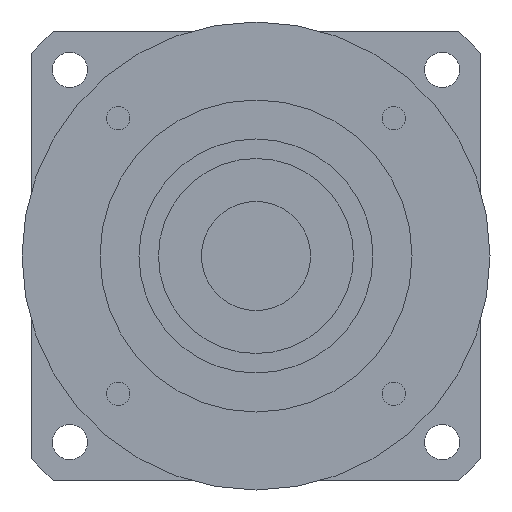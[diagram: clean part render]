
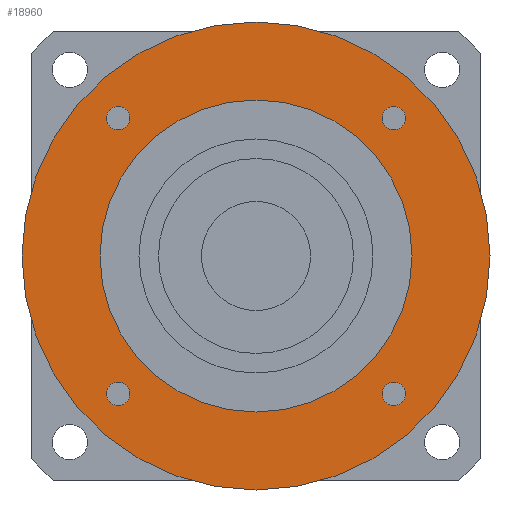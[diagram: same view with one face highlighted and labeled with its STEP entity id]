
A CAD part, left-side view. The second image highlights one B-rep face of the part: STEP entity #18960.
In plain terms, the highlighted planar face has unit normal (-1, 0, 0) as drawn and (0, 0, -1) by its records, which use the part's own axes.
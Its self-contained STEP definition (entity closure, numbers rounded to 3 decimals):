
#15820=CARTESIAN_POINT('',(-32.355,-35.355,-125.));
#15830=VERTEX_POINT('',#15820);
#16010=CARTESIAN_POINT('',(-38.355,-35.355,-125.));
#16020=VERTEX_POINT('',#16010);
#16050=CARTESIAN_POINT('',(-35.355,-35.355,-125.));
#16060=DIRECTION('',(0.,0.,1.));
#16070=DIRECTION('',(1.,0.,0.));
#16080=AXIS2_PLACEMENT_3D('',#16050,#16060,#16070);
#16090=CIRCLE('',#16080,3.);
#16100=EDGE_CURVE('',#16020,#15830,#16090,.T.);
#16240=CARTESIAN_POINT('',(-35.355,32.355,-125.));
#16250=VERTEX_POINT('',#16240);
#16430=CARTESIAN_POINT('',(-35.355,38.355,-125.));
#16440=VERTEX_POINT('',#16430);
#16470=CARTESIAN_POINT('',(-35.355,35.355,-125.));
#16480=DIRECTION('',(0.,0.,1.));
#16490=DIRECTION('',(0.,-1.,0.));
#16500=AXIS2_PLACEMENT_3D('',#16470,#16480,#16490);
#16510=CIRCLE('',#16500,3.);
#16520=EDGE_CURVE('',#16440,#16250,#16510,.T.);
#17990=CARTESIAN_POINT('',(60.,0.,-125.));
#18000=VERTEX_POINT('',#17990);
#18030=CARTESIAN_POINT('',(0.,0.,
-125.));
#18040=DIRECTION('',(0.,0.,1.));
#18050=DIRECTION('',(0.,-1.,0.));
#18060=AXIS2_PLACEMENT_3D('',#18030,#18040,#18050);
#18070=CIRCLE('',#18060,60.);
#18080=CARTESIAN_POINT('',(0.,-60.,-125.));
#18090=VERTEX_POINT('',#18080);
#18100=EDGE_CURVE('',#18090,#18000,#18070,.T.);
#18120=CARTESIAN_POINT('',(-60.,0.,-125.));
#18130=VERTEX_POINT('',#18120);
#18140=EDGE_CURVE('',#18130,#18090,#18070,.T.);
#18260=CARTESIAN_POINT('',(0.,0.,
-125.));
#18270=DIRECTION('',(0.,0.,1.));
#18280=DIRECTION('',(-1.,0.,0.));
#18290=AXIS2_PLACEMENT_3D('',#18260,#18270,#18280);
#18300=PLANE('',#18290);
#18310=CARTESIAN_POINT('',(0.,0.,
-125.));
#18320=DIRECTION('',(0.,0.,1.));
#18330=DIRECTION('',(0.,-1.,0.));
#18340=AXIS2_PLACEMENT_3D('',#18310,#18320,#18330);
#18350=CIRCLE('',#18340,40.);
#18360=CARTESIAN_POINT('',(40.,0.,-125.));
#18370=VERTEX_POINT('',#18360);
#18380=CARTESIAN_POINT('',(-40.,0.,-125.));
#18390=VERTEX_POINT('',#18380);
#18400=EDGE_CURVE('',#18370,#18390,#18350,.T.);
#18410=ORIENTED_EDGE('',*,*,#18400,.T.);
#18420=CARTESIAN_POINT('',(0.,-40.,-125.));
#18430=VERTEX_POINT('',#18420);
#18440=EDGE_CURVE('',#18430,#18370,#18350,.T.);
#18450=ORIENTED_EDGE('',*,*,#18440,.T.);
#18460=EDGE_CURVE('',#18390,#18430,#18350,.T.);
#18470=ORIENTED_EDGE('',*,*,#18460,.T.);
#18480=EDGE_LOOP('',(#18470,#18450,#18410));
#18490=FACE_BOUND('',#18480,.T.);
#18500=CARTESIAN_POINT('',(35.355,-35.355,-125.));
#18510=DIRECTION('',(0.,0.,1.));
#18520=DIRECTION('',(0.,1.,0.));
#18530=AXIS2_PLACEMENT_3D('',#18500,#18510,#18520);
#18540=CIRCLE('',#18530,3.);
#18550=CARTESIAN_POINT('',(35.355,-32.355,-125.));
#18560=VERTEX_POINT('',#18550);
#18570=CARTESIAN_POINT('',(35.355,-38.355,-125.));
#18580=VERTEX_POINT('',#18570);
#18590=EDGE_CURVE('',#18560,#18580,#18540,.T.);
#18600=ORIENTED_EDGE('',*,*,#18590,.T.);
#18610=EDGE_CURVE('',#18580,#18560,#18540,.T.);
#18620=ORIENTED_EDGE('',*,*,#18610,.T.);
#18630=EDGE_LOOP('',(#18620,#18600));
#18640=FACE_BOUND('',#18630,.T.);
#18650=CARTESIAN_POINT('',(35.355,35.355,-125.));
#18660=DIRECTION('',(0.,0.,1.));
#18670=DIRECTION('',(-1.,0.,0.));
#18680=AXIS2_PLACEMENT_3D('',#18650,#18660,#18670);
#18690=CIRCLE('',#18680,3.);
#18700=CARTESIAN_POINT('',(32.355,35.355,-125.));
#18710=VERTEX_POINT('',#18700);
#18720=CARTESIAN_POINT('',(38.355,35.355,-125.));
#18730=VERTEX_POINT('',#18720);
#18740=EDGE_CURVE('',#18710,#18730,#18690,.T.);
#18750=ORIENTED_EDGE('',*,*,#18740,.T.);
#18760=EDGE_CURVE('',#18730,#18710,#18690,.T.);
#18770=ORIENTED_EDGE('',*,*,#18760,.T.);
#18780=EDGE_LOOP('',(#18770,#18750));
#18790=FACE_BOUND('',#18780,.T.);
#18800=EDGE_CURVE('',#16250,#16440,#16510,.T.);
#18810=ORIENTED_EDGE('',*,*,#18800,.T.);
#18820=ORIENTED_EDGE('',*,*,#16520,.T.);
#18830=EDGE_LOOP('',(#18820,#18810));
#18840=FACE_BOUND('',#18830,.T.);
#18850=EDGE_CURVE('',#15830,#16020,#16090,.T.);
#18860=ORIENTED_EDGE('',*,*,#18850,.T.);
#18870=ORIENTED_EDGE('',*,*,#16100,.T.);
#18880=EDGE_LOOP('',(#18870,#18860));
#18890=FACE_BOUND('',#18880,.T.);
#18900=ORIENTED_EDGE('',*,*,#18100,.F.);
#18910=EDGE_CURVE('',#18000,#18130,#18070,.T.);
#18920=ORIENTED_EDGE('',*,*,#18910,.F.);
#18930=ORIENTED_EDGE('',*,*,#18140,.F.);
#18940=EDGE_LOOP('',(#18930,#18920,#18900));
#18950=FACE_OUTER_BOUND('',#18940,.T.);
#18960=ADVANCED_FACE('',(#18490,#18640,#18790,#18840,#18890,#18950),
#18300,.F.);
